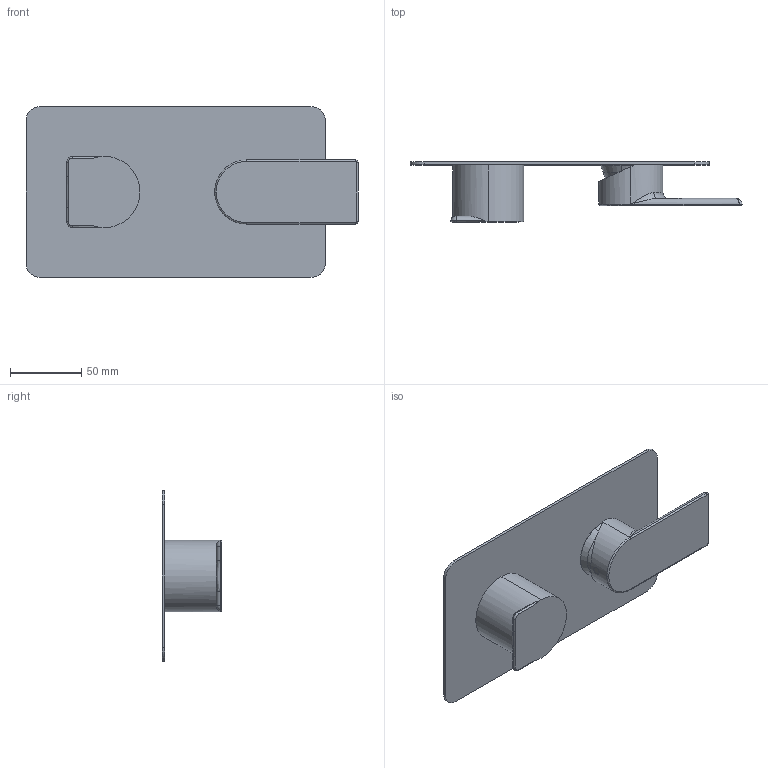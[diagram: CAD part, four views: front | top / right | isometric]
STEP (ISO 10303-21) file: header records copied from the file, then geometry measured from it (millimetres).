
FILE_DESCRIPTION (( 'STEP AP214' ), '1' );
FILE_NAME ('80225310 x architetti.STEP', '2025-03-06T11:10:23', ( '' ), ( '' ), 'SwSTEP 2.0', 'SolidWorks 2020', '' );
FILE_SCHEMA (( 'AUTOMOTIVE_DESIGN' ));
Length unit declared in the file: millimetre
Products named in the file (1): 80225310 x architetti
Bounding box: 233 x 42 x 120 mm (x, y, z)
Volume: 176470.8 mm3; surface area: 76554.1 mm2
Topology: 2 solids, 3 shells, 81 faces, 189 edges, 112 vertices
Faces by surface type: cylinder 36, plane 17, bspline 8, cone 7, torus 7, sphere 6
Entity records: 4030 total; most frequent: CARTESIAN_POINT 1340, DIRECTION 397, ORIENTED_EDGE 370, EDGE_CURVE 185, AXIS2_PLACEMENT_3D 167, VERTEX_POINT 112, CIRCLE 93, EDGE_LOOP 89
